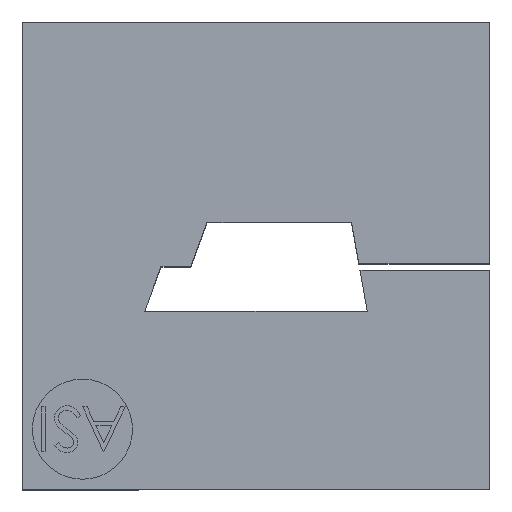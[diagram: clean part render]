
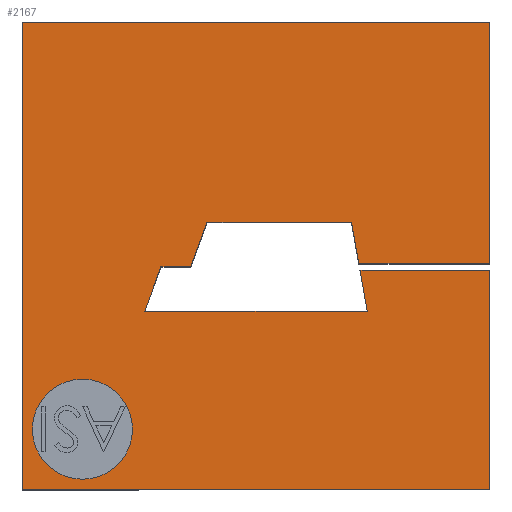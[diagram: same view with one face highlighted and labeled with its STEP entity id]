
A CAD part, top view. The second image highlights one B-rep face of the part: STEP entity #2167.
In plain terms, the highlighted planar face has unit normal (0, 0, 1).
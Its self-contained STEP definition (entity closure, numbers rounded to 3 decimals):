
#9 = EDGE_CURVE ( 'NONE', #1752, #1813, #107, .T. ) ;
#14 = LINE ( 'NONE', #911, #2062 ) ;
#40 = EDGE_CURVE ( 'NONE', #262, #1752, #1349, .T. ) ;
#41 = CARTESIAN_POINT ( 'NONE',  ( 0., 10.5, 9.5 ) ) ;
#62 = DIRECTION ( 'NONE',  ( 0., -1., 0. ) ) ;
#76 = ORIENTED_EDGE ( 'NONE', *, *, #700, .F. ) ;
#100 = DIRECTION ( 'NONE',  ( -1., 0., 0. ) ) ;
#103 = EDGE_LOOP ( 'NONE', ( #1143, #957, #257, #833, #976, #1214, #76, #541, #166, #604, #1698, #423, #2057, #2212 ) ) ;
#107 = LINE ( 'NONE', #581, #318 ) ;
#114 = CARTESIAN_POINT ( 'NONE',  ( 0., 0., 9.5 ) ) ;
#125 = VECTOR ( 'NONE', #903, 1000. ) ;
#141 = LINE ( 'NONE', #2358, #1445 ) ;
#166 = ORIENTED_EDGE ( 'NONE', *, *, #2298, .F. ) ;
#245 = FACE_BOUND ( 'NONE', #1958, .T. ) ;
#257 = ORIENTED_EDGE ( 'NONE', *, *, #761, .F. ) ;
#262 = VERTEX_POINT ( 'NONE', #588 ) ;
#284 = FACE_OUTER_BOUND ( 'NONE', #103, .T. ) ;
#318 = VECTOR ( 'NONE', #377, 1000. ) ;
#319 = LINE ( 'NONE', #408, #2613 ) ;
#351 = VECTOR ( 'NONE', #2438, 1000. ) ;
#371 = CARTESIAN_POINT ( 'NONE',  ( 15.5, -2.5, 9.5 ) ) ;
#377 = DIRECTION ( 'NONE',  ( -0.342, -0.94, 0. ) ) ;
#380 = AXIS2_PLACEMENT_3D ( 'NONE', #1851, #543, #2074 ) ;
#398 = CARTESIAN_POINT ( 'NONE',  ( 21., -10.5, 9.5 ) ) ;
#405 = EDGE_CURVE ( 'NONE', #709, #2350, #589, .T. ) ;
#408 = CARTESIAN_POINT ( 'NONE',  ( 14.795, 1.5, 9.5 ) ) ;
#423 = ORIENTED_EDGE ( 'NONE', *, *, #2787, .F. ) ;
#462 = CARTESIAN_POINT ( 'NONE',  ( 15.121, -0.35, 9.5 ) ) ;
#471 = CARTESIAN_POINT ( 'NONE',  ( 6.228, -0.5, 9.5 ) ) ;
#504 = CARTESIAN_POINT ( 'NONE',  ( 0., -0.35, 9.5 ) ) ;
#530 = VERTEX_POINT ( 'NONE', #1750 ) ;
#541 = ORIENTED_EDGE ( 'NONE', *, *, #1241, .T. ) ;
#543 = DIRECTION ( 'NONE',  ( 0., 0., 1. ) ) ;
#559 = EDGE_CURVE ( 'NONE', #2690, #530, #1846, .T. ) ;
#563 = VERTEX_POINT ( 'NONE', #462 ) ;
#581 = CARTESIAN_POINT ( 'NONE',  ( 7.567, -0.5, 9.5 ) ) ;
#588 = CARTESIAN_POINT ( 'NONE',  ( 14.795, 1.5, 9.5 ) ) ;
#589 = CIRCLE ( 'NONE', #1635, 2.25 ) ;
#604 = ORIENTED_EDGE ( 'NONE', *, *, #1142, .F. ) ;
#650 = VECTOR ( 'NONE', #62, 1000. ) ;
#669 = CIRCLE ( 'NONE', #380, 2.25 ) ;
#687 = CARTESIAN_POINT ( 'NONE',  ( 0., -10.5, 9.5 ) ) ;
#700 = EDGE_CURVE ( 'NONE', #1640, #2690, #1708, .T. ) ;
#709 = VERTEX_POINT ( 'NONE', #1603 ) ;
#761 = EDGE_CURVE ( 'NONE', #1003, #2316, #1993, .T. ) ;
#763 = CARTESIAN_POINT ( 'NONE',  ( 0., 0., 9.5 ) ) ;
#766 = CARTESIAN_POINT ( 'NONE',  ( 0., 10.5, 9.5 ) ) ;
#789 = DIRECTION ( 'NONE',  ( 0., -1., 0. ) ) ;
#808 = EDGE_CURVE ( 'NONE', #2855, #530, #2595, .T. ) ;
#833 = ORIENTED_EDGE ( 'NONE', *, *, #1236, .T. ) ;
#903 = DIRECTION ( 'NONE',  ( -1., 0., 0. ) ) ;
#911 = CARTESIAN_POINT ( 'NONE',  ( 15.5, -2.5, 9.5 ) ) ;
#913 = DIRECTION ( 'NONE',  ( -0.174, 0.985, 0. ) ) ;
#957 = ORIENTED_EDGE ( 'NONE', *, *, #2404, .F. ) ;
#967 = AXIS2_PLACEMENT_3D ( 'NONE', #763, #2506, #1202 ) ;
#976 = ORIENTED_EDGE ( 'NONE', *, *, #808, .T. ) ;
#999 = VERTEX_POINT ( 'NONE', #1069 ) ;
#1003 = VERTEX_POINT ( 'NONE', #2817 ) ;
#1069 = CARTESIAN_POINT ( 'NONE',  ( 5.5, -2.5, 9.5 ) ) ;
#1127 = DIRECTION ( 'NONE',  ( 1., 0., 0. ) ) ;
#1142 = EDGE_CURVE ( 'NONE', #999, #2557, #14, .T. ) ;
#1143 = ORIENTED_EDGE ( 'NONE', *, *, #2355, .F. ) ;
#1169 = CARTESIAN_POINT ( 'NONE',  ( 15.174, -0.65, 9.5 ) ) ;
#1199 = LINE ( 'NONE', #766, #2293 ) ;
#1202 = DIRECTION ( 'NONE',  ( -1., 0., 0. ) ) ;
#1214 = ORIENTED_EDGE ( 'NONE', *, *, #559, .F. ) ;
#1216 = VECTOR ( 'NONE', #2051, 1000. ) ;
#1236 = EDGE_CURVE ( 'NONE', #1003, #2855, #1199, .T. ) ;
#1241 = EDGE_CURVE ( 'NONE', #1640, #2070, #1819, .T. ) ;
#1296 = CARTESIAN_POINT ( 'NONE',  ( 2.7, -7.8, 9.5 ) ) ;
#1309 = DIRECTION ( 'NONE',  ( -1., 0., 0. ) ) ;
#1349 = LINE ( 'NONE', #2836, #2145 ) ;
#1413 = LINE ( 'NONE', #2439, #2147 ) ;
#1417 = LINE ( 'NONE', #504, #1216 ) ;
#1445 = VECTOR ( 'NONE', #1925, 1000. ) ;
#1483 = CARTESIAN_POINT ( 'NONE',  ( 8.295, 1.5, 9.5 ) ) ;
#1505 = DIRECTION ( 'NONE',  ( 1., 0., 0. ) ) ;
#1538 = VECTOR ( 'NONE', #789, 1000. ) ;
#1603 = CARTESIAN_POINT ( 'NONE',  ( 0.45, -7.8, 9.5 ) ) ;
#1622 = CARTESIAN_POINT ( 'NONE',  ( 21., 0., 9.5 ) ) ;
#1633 = PLANE ( 'NONE',  #967 ) ;
#1635 = AXIS2_PLACEMENT_3D ( 'NONE', #1296, #2823, #1505 ) ;
#1637 = CARTESIAN_POINT ( 'NONE',  ( 21., -0.65, 9.5 ) ) ;
#1640 = VERTEX_POINT ( 'NONE', #1637 ) ;
#1698 = ORIENTED_EDGE ( 'NONE', *, *, #2605, .F. ) ;
#1708 = LINE ( 'NONE', #2692, #2465 ) ;
#1750 = CARTESIAN_POINT ( 'NONE',  ( 0., -10.5, 9.5 ) ) ;
#1752 = VERTEX_POINT ( 'NONE', #1483 ) ;
#1813 = VERTEX_POINT ( 'NONE', #2805 ) ;
#1816 = VECTOR ( 'NONE', #100, 1000. ) ;
#1819 = LINE ( 'NONE', #2731, #1816 ) ;
#1840 = DIRECTION ( 'NONE',  ( -1., 0., 0. ) ) ;
#1846 = LINE ( 'NONE', #687, #125 ) ;
#1851 = CARTESIAN_POINT ( 'NONE',  ( 2.7, -7.8, 9.5 ) ) ;
#1925 = DIRECTION ( 'NONE',  ( -0.342, -0.94, 0. ) ) ;
#1954 = LINE ( 'NONE', #471, #351 ) ;
#1958 = EDGE_LOOP ( 'NONE', ( #2437, #2477 ) ) ;
#1976 = CARTESIAN_POINT ( 'NONE',  ( 4.95, -7.8, 9.5 ) ) ;
#1993 = LINE ( 'NONE', #1622, #650 ) ;
#2039 = DIRECTION ( 'NONE',  ( 0., -1., 0. ) ) ;
#2051 = DIRECTION ( 'NONE',  ( -1., 0., 0. ) ) ;
#2057 = ORIENTED_EDGE ( 'NONE', *, *, #9, .F. ) ;
#2062 = VECTOR ( 'NONE', #1127, 1000. ) ;
#2070 = VERTEX_POINT ( 'NONE', #1169 ) ;
#2074 = DIRECTION ( 'NONE',  ( 1., 0., 0. ) ) ;
#2137 = CARTESIAN_POINT ( 'NONE',  ( 6.228, -0.5, 9.5 ) ) ;
#2142 = EDGE_CURVE ( 'NONE', #2350, #709, #669, .T. ) ;
#2145 = VECTOR ( 'NONE', #1309, 1000. ) ;
#2147 = VECTOR ( 'NONE', #913, 1000. ) ;
#2167 = ADVANCED_FACE ( 'NONE', ( #284, #245 ), #1633, .F. ) ;
#2197 = DIRECTION ( 'NONE',  ( -0.174, 0.985, 0. ) ) ;
#2212 = ORIENTED_EDGE ( 'NONE', *, *, #40, .F. ) ;
#2293 = VECTOR ( 'NONE', #1840, 1000. ) ;
#2298 = EDGE_CURVE ( 'NONE', #2557, #2070, #319, .T. ) ;
#2316 = VERTEX_POINT ( 'NONE', #2528 ) ;
#2350 = VERTEX_POINT ( 'NONE', #1976 ) ;
#2355 = EDGE_CURVE ( 'NONE', #563, #262, #1413, .T. ) ;
#2358 = CARTESIAN_POINT ( 'NONE',  ( 5.5, -2.5, 9.5 ) ) ;
#2404 = EDGE_CURVE ( 'NONE', #2316, #563, #1417, .T. ) ;
#2437 = ORIENTED_EDGE ( 'NONE', *, *, #2142, .F. ) ;
#2438 = DIRECTION ( 'NONE',  ( -1., 0., 0. ) ) ;
#2439 = CARTESIAN_POINT ( 'NONE',  ( 14.795, 1.5, 9.5 ) ) ;
#2465 = VECTOR ( 'NONE', #2039, 1000. ) ;
#2477 = ORIENTED_EDGE ( 'NONE', *, *, #405, .F. ) ;
#2506 = DIRECTION ( 'NONE',  ( 0., 0., -1. ) ) ;
#2528 = CARTESIAN_POINT ( 'NONE',  ( 21., -0.35, 9.5 ) ) ;
#2557 = VERTEX_POINT ( 'NONE', #371 ) ;
#2572 = VERTEX_POINT ( 'NONE', #2137 ) ;
#2595 = LINE ( 'NONE', #114, #1538 ) ;
#2605 = EDGE_CURVE ( 'NONE', #2572, #999, #141, .T. ) ;
#2613 = VECTOR ( 'NONE', #2197, 1000. ) ;
#2690 = VERTEX_POINT ( 'NONE', #398 ) ;
#2692 = CARTESIAN_POINT ( 'NONE',  ( 21., 0., 9.5 ) ) ;
#2731 = CARTESIAN_POINT ( 'NONE',  ( 0., -0.65, 9.5 ) ) ;
#2787 = EDGE_CURVE ( 'NONE', #1813, #2572, #1954, .T. ) ;
#2805 = CARTESIAN_POINT ( 'NONE',  ( 7.567, -0.5, 9.5 ) ) ;
#2817 = CARTESIAN_POINT ( 'NONE',  ( 21., 10.5, 9.5 ) ) ;
#2823 = DIRECTION ( 'NONE',  ( 0., 0., 1. ) ) ;
#2836 = CARTESIAN_POINT ( 'NONE',  ( 8.295, 1.5, 9.5 ) ) ;
#2855 = VERTEX_POINT ( 'NONE', #41 ) ;
